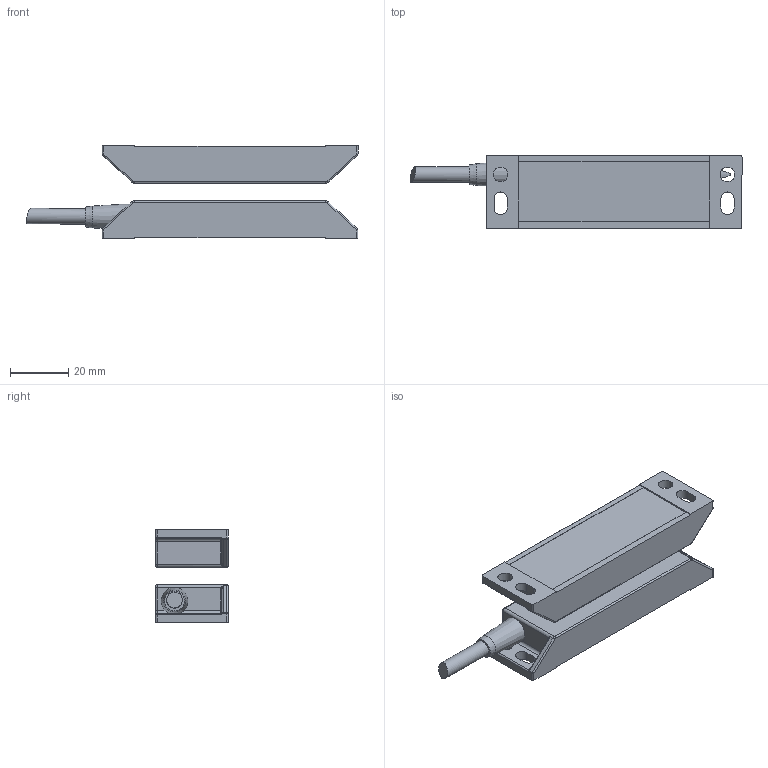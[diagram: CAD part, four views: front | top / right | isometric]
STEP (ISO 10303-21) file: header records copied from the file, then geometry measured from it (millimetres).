
FILE_DESCRIPTION((''),'2;1');
FILE_NAME('C:\Vault_local\Designs\Stock\3D pour clients\préparations\2D3D 523 A_arrangement 2.stp','2009-08-17T11:04:12',('Georges THOLLOT ','Responsible for','Methods and Industrialization',' Tl : +33 (0)4 77 53 90 27','gthollot@celduc.com'),('Celduc r e l a i s','5, rue Ampre, BP 30004','42290 SORBIERS - France','Fax. : +33 (0)4 77 53 85 51','N siret 353 310 519 00015','ISO 9001 N QUAL/1993/1106b','www.celduc.com'),'Autodesk Inventor 2009','Autodesk Inventor 2009','');
FILE_SCHEMA(('AUTOMOTIVE_DESIGN { 1 0 10303 214 1 1 1 1 }'));
Length unit declared in the file: millimetre
Products named in the file (3): PXS arrangement 2; PXS magnet; PXS detector
Assembly tree (2 placements, depth 2):
  PXS arrangement 2
    PXS magnet
    PXS detector
Bounding box: 114.15 x 25 x 32 mm (x, y, z)
Volume: 46953.6 mm3; surface area: 14724.3 mm2
Topology: 2 solids, 2 shells, 168 faces, 429 edges, 257 vertices
Faces by surface type: cylinder 58, plane 54, bspline 37, sphere 8, torus 8, cone 3
Full cylindrical faces by diameter (mm): 5 x2, 5.3 x1
Entity records: 6344 total; most frequent: CARTESIAN_POINT 2309, ORIENTED_EDGE 810, DIRECTION 806, EDGE_CURVE 405, AXIS2_PLACEMENT_3D 298, VERTEX_POINT 249, VECTOR 210, LINE 210
